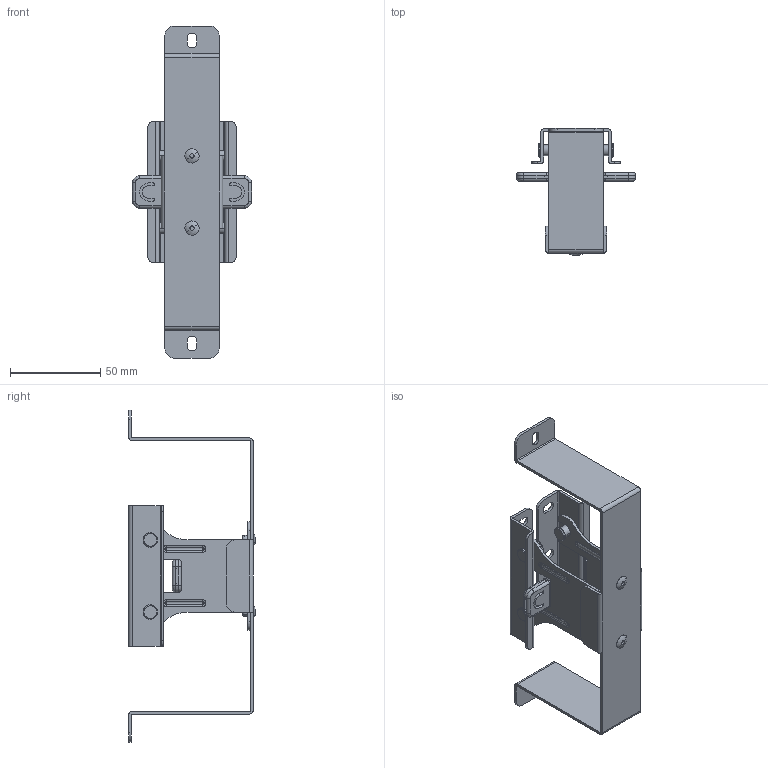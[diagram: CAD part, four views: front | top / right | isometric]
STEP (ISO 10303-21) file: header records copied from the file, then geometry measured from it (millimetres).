
FILE_DESCRIPTION (( 'STEP AP214' ), '1' );
FILE_NAME ('N424-CB-W.STEP', '2025-10-07T07:57:39', ( '' ), ( '' ), 'SwSTEP 2.0', 'SolidWorks 2024', '' );
FILE_SCHEMA (( 'AUTOMOTIVE_DESIGN' ));
Length unit declared in the file: millimetre
Products named in the file (6): CenterBracketW; Hinge; CenterFrameW; LeverCap; N424-CB-W; リベットφ４
Assembly tree (8 placements, depth 2):
  N424-CB-W
    CenterBracketW
    CenterFrameW
    Hinge  x2
    LeverCap  x2
    リベットφ４  x2
Bounding box: 66 x 70.3 x 184 mm (x, y, z)
Volume: 38020.8 mm3; surface area: 53030.3 mm2
Topology: 8 solids, 8 shells, 1324 faces, 2910 edges, 1778 vertices
Faces by surface type: torus 364, cone 356, plane 346, cylinder 226, sphere 32
Entity records: 22049 total; most frequent: DIRECTION 4384, CARTESIAN_POINT 3591, ORIENTED_EDGE 3472, AXIS2_PLACEMENT_3D 1863, EDGE_CURVE 1736, CIRCLE 1078, VERTEX_POINT 1070, EDGE_LOOP 900
